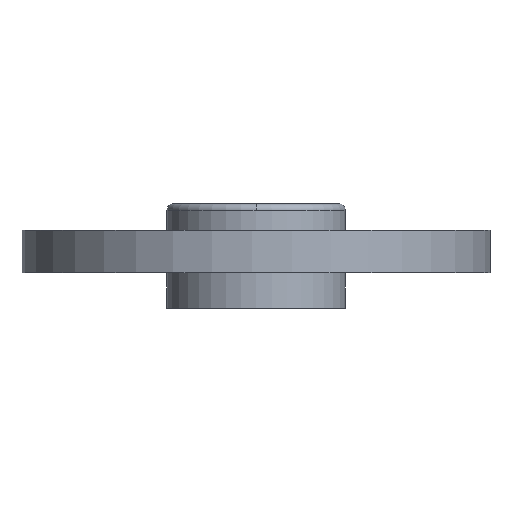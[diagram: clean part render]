
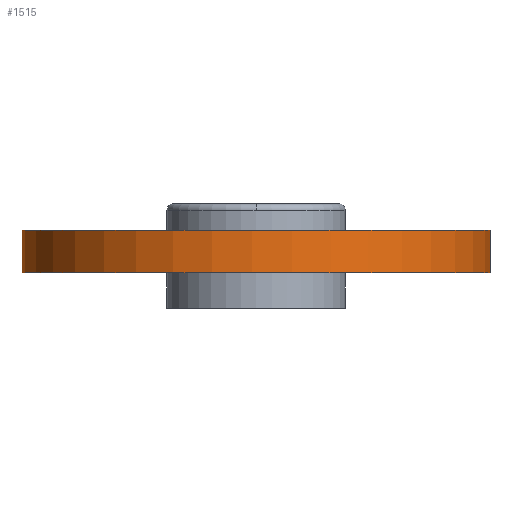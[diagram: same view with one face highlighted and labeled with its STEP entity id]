
A CAD part, front view. The second image highlights one B-rep face of the part: STEP entity #1515.
In plain terms, the highlighted cylindrical face has radius 10.5 mm (diameter 21 mm), a partial arc.
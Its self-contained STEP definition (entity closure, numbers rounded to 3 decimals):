
#686 = CARTESIAN_POINT ( 'NONE',  ( 10.492, -0.4, 0. ) ) ;
#753 = CARTESIAN_POINT ( 'NONE',  ( 0., 0., 0. ) ) ;
#754 = FACE_OUTER_BOUND ( 'NONE', #1547, .T. ) ;
#783 = CIRCLE ( 'NONE', #845, 10.5 ) ;
#805 = DIRECTION ( 'NONE',  ( 1., 0., 0. ) ) ;
#806 = DIRECTION ( 'NONE',  ( 0., 0., 1. ) ) ;
#807 = AXIS2_PLACEMENT_3D ( 'NONE', #753, #806, #805 ) ;
#808 = CYLINDRICAL_SURFACE ( 'NONE', #807, 10.5 ) ;
#842 = DIRECTION ( 'NONE',  ( 1., 0., 0. ) ) ;
#843 = DIRECTION ( 'NONE',  ( 0., 0., 1. ) ) ;
#844 = CARTESIAN_POINT ( 'NONE',  ( 0., 0., -1.9 ) ) ;
#845 = AXIS2_PLACEMENT_3D ( 'NONE', #844, #843, #842 ) ;
#888 = CARTESIAN_POINT ( 'NONE',  ( 10.492, 0.4, -1.9 ) ) ;
#889 = CARTESIAN_POINT ( 'NONE',  ( 10.492, 0.4, 0. ) ) ;
#890 = DIRECTION ( 'NONE',  ( 0., 0., -1. ) ) ;
#891 = VECTOR ( 'NONE', #890, 1000. ) ;
#892 = CARTESIAN_POINT ( 'NONE',  ( 10.492, 0.4, -4.014 ) ) ;
#893 = LINE ( 'NONE', #892, #891 ) ;
#969 = CARTESIAN_POINT ( 'NONE',  ( 10.492, -0.4, -1.9 ) ) ;
#970 = DIRECTION ( 'NONE',  ( 0., 0., 1. ) ) ;
#971 = VECTOR ( 'NONE', #970, 1000. ) ;
#972 = CARTESIAN_POINT ( 'NONE',  ( 10.492, -0.4, 0. ) ) ;
#973 = LINE ( 'NONE', #972, #971 ) ;
#974 = DIRECTION ( 'NONE',  ( 1., 0., 0. ) ) ;
#975 = DIRECTION ( 'NONE',  ( 0., 0., 1. ) ) ;
#976 = CARTESIAN_POINT ( 'NONE',  ( 0., 0., 0. ) ) ;
#977 = AXIS2_PLACEMENT_3D ( 'NONE', #976, #975, #974 ) ;
#978 = CIRCLE ( 'NONE', #977, 10.5 ) ;
#1447 = VERTEX_POINT ( 'NONE', #686 ) ;
#1515 = ADVANCED_FACE ( 'NONE', ( #754 ), #808, .T. ) ;
#1526 = EDGE_CURVE ( 'NONE', #1587, #1660, #783, .T. ) ;
#1532 = ORIENTED_EDGE ( 'NONE', *, *, #1585, .T. ) ;
#1533 = ORIENTED_EDGE ( 'NONE', *, *, #1526, .T. ) ;
#1547 = EDGE_LOOP ( 'NONE', ( #1656, #1657, #1532, #1533 ) ) ;
#1585 = EDGE_CURVE ( 'NONE', #1586, #1587, #893, .T. ) ;
#1586 = VERTEX_POINT ( 'NONE', #889 ) ;
#1587 = VERTEX_POINT ( 'NONE', #888 ) ;
#1655 = EDGE_CURVE ( 'NONE', #1586, #1447, #978, .T. ) ;
#1656 = ORIENTED_EDGE ( 'NONE', *, *, #1659, .T. ) ;
#1657 = ORIENTED_EDGE ( 'NONE', *, *, #1655, .F. ) ;
#1659 = EDGE_CURVE ( 'NONE', #1660, #1447, #973, .T. ) ;
#1660 = VERTEX_POINT ( 'NONE', #969 ) ;
